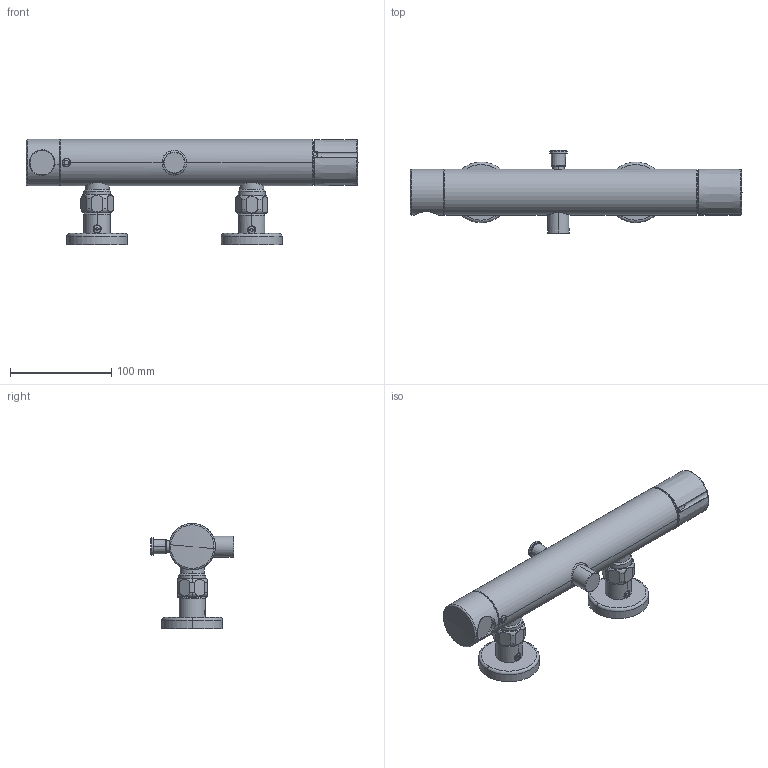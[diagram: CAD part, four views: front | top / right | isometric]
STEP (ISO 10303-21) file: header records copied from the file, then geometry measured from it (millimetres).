
FILE_DESCRIPTION((''),'2;1');
FILE_NAME('ORA153_SW0001','2022-02-25T08:23:21',('KS894'),(''),'CREO PARAMETRIC BY PTC INC, 2018500','CREO PARAMETRIC BY PTC INC, 2018500','');
FILE_SCHEMA(('CONFIG_CONTROL_DESIGN'));
Length unit declared in the file: millimetre
Products named in the file (1): ORA153_SW0001
Bounding box: 328.6 x 82.32 x 104.1 mm (x, y, z)
Volume: 658838.6 mm3; surface area: 83674.4 mm2
Topology: 4 solids, 4 shells, 368 faces, 858 edges, 512 vertices
Faces by surface type: cylinder 96, torus 79, plane 77, bspline 70, sphere 24, cone 22
Entity records: 22390 total; most frequent: CARTESIAN_POINT 14486, ORIENTED_EDGE 1704, DIRECTION 1587, EDGE_CURVE 852, AXIS2_PLACEMENT_3D 694, VERTEX_POINT 512, CIRCLE 396, EDGE_LOOP 390
